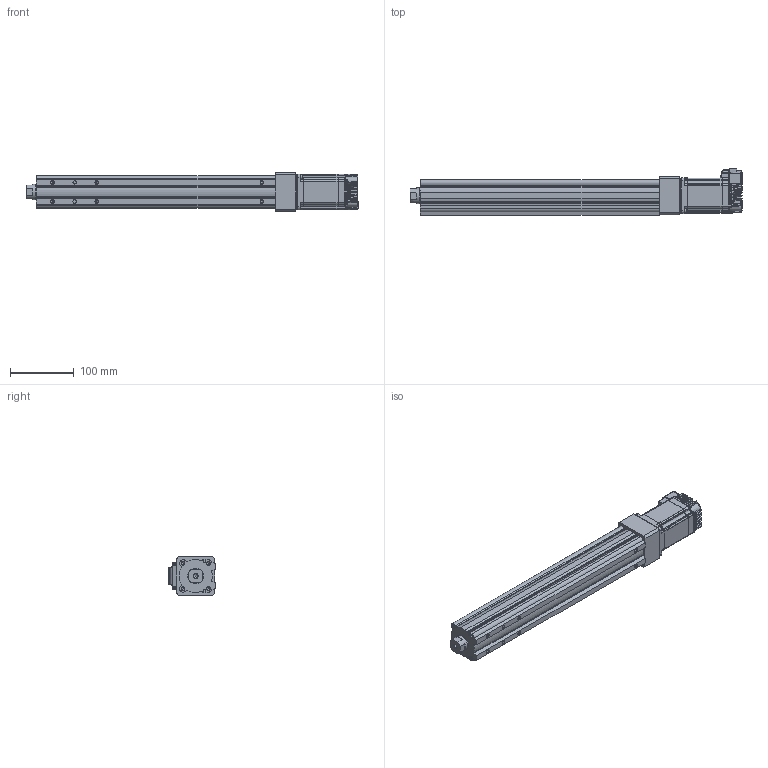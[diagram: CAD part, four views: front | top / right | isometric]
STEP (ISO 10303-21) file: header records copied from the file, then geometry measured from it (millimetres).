
FILE_DESCRIPTION (( 'STEP AP214' ), '1' );
FILE_NAME ('LEY3(+)-32DNM1□-250-23L.STEP', '2023-04-06T07:49:56', ( '' ), ( '' ), 'SwSTEP 2.0', 'SolidWorks 2019', '' );
FILE_SCHEMA (( 'AUTOMOTIVE_DESIGN' ));
Length unit declared in the file: millimetre
Products named in the file (5): LEY3(+)-32DNM1□-250-23L; LEY3(+)-32NM1?_BODY_250; CM3(+)-23L50A_2-M4_01; LEY3(+)-32DNM1_MOTOR Flange; LEY3(+)-32NM1?_ROD_250
Assembly tree (4 placements, depth 2):
  LEY3(+)-32DNM1□-250-23L
    LEY3(+)-32NM1?_BODY_250
    LEY3(+)-32NM1?_ROD_250
    LEY3(+)-32DNM1_MOTOR Flange
    CM3(+)-23L50A_2-M4_01
Bounding box: 522.8 x 73.75 x 60 mm (x, y, z)
Volume: 1260746.2 mm3; surface area: 210962.2 mm2
Topology: 4 solids, 13 shells, 1439 faces, 3713 edges, 2295 vertices
Faces by surface type: plane 668, cylinder 432, bspline 133, cone 101, torus 58, sphere 47
Full cylindrical faces by diameter (mm): 2.5 x4, 3 x2, 3.2 x4, 4.2 x1, 4.5 x7, 4.9 x10, 5 x1, 6.2 x4, 6.35 x1, 6.8 x1, 7 x2, 8 x2, 24.8 x1, 25 x2, 32 x2, 38.1 x1
Entity records: 49056 total; most frequent: CARTESIAN_POINT 12638, ORIENTED_EDGE 7102, DIRECTION 6555, EDGE_CURVE 3551, VERTEX_POINT 2267, AXIS2_PLACEMENT_3D 2230, VECTOR 2095, LINE 2095
